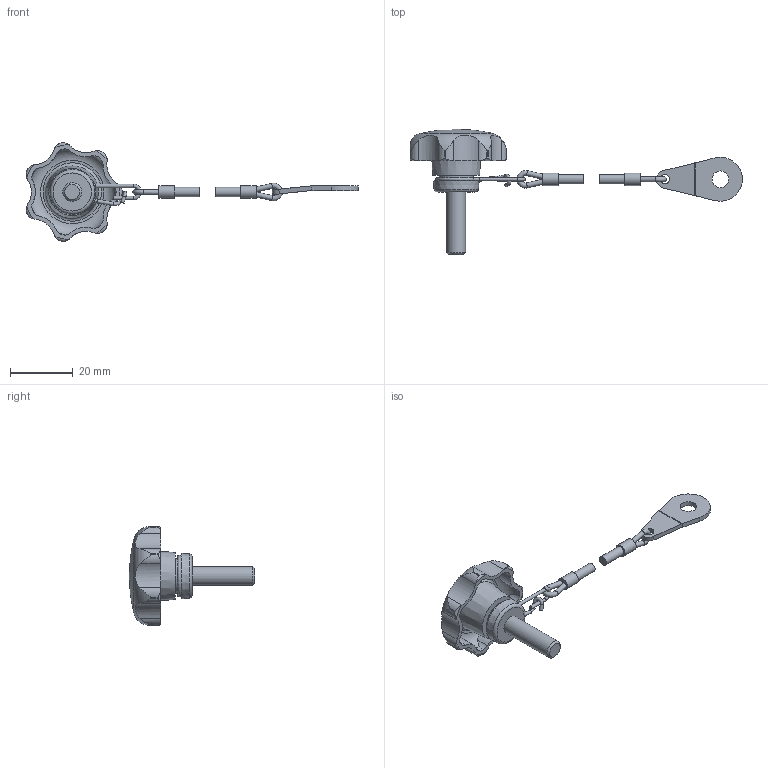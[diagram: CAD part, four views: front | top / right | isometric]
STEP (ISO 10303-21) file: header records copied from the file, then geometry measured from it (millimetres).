
FILE_DESCRIPTION( ( 'STEP AP203' ), '1' );
FILE_NAME( 'C:/Temp/Ganter_Step_05_03_2020/data/2_2/gn_6336_13/gn_6336_13_2/Star knob GN 6336.13-32-M6-20-H.stp', '2020-03-05T12:11:33', ( 'License CC BY-ND 4.0' ), ( 'CADENAS' ), ' ', 'PARTsolutions', ' ' );
FILE_SCHEMA( ( 'CONFIG_CONTROL_DESIGN' ) );
Length unit declared in the file: millimetre
Products named in the file (3): Star knob GN 6336.13-32-M6-20-H; _Star knob GN 6336.13-32-M6-20-H 6; _Star knob GN 111.2-200-14 h2
Assembly tree (2 placements, depth 2):
  Star knob GN 6336.13-32-M6-20-H
    _Star knob GN 6336.13-32-M6-20-H 6
    _Star knob GN 111.2-200-14 h2
Bounding box: 105.8 x 40 x 31.36 mm (x, y, z)
Volume: 6923.6 mm3; surface area: 5005.4 mm2
Topology: 2 solids, 2 shells, 137 faces, 377 edges, 245 vertices
Faces by surface type: cylinder 75, plane 30, torus 20, cone 11, sphere 1
Full cylindrical faces by diameter (mm): 1.1 x4, 1.11 x1, 1.6 x4, 3 x3, 4 x2, 5.3 x1, 6 x1, 10.9 x1
Entity records: 5106 total; most frequent: CARTESIAN_POINT 1802, DIRECTION 652, ORIENTED_EDGE 642, EDGE_CURVE 321, AXIS2_PLACEMENT_3D 281, VERTEX_POINT 231, EDGE_LOOP 187, FACE_OUTER_BOUND 166
